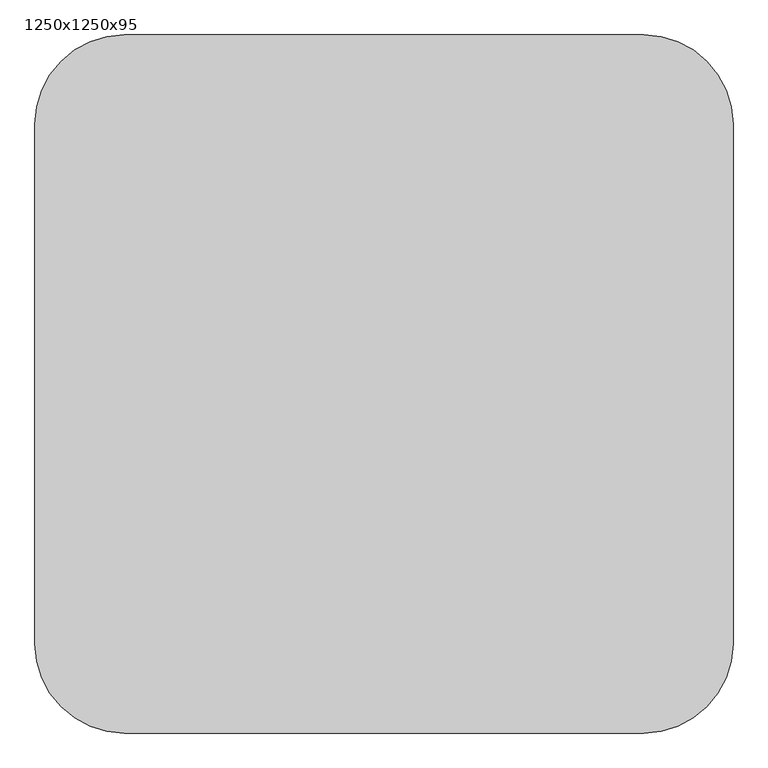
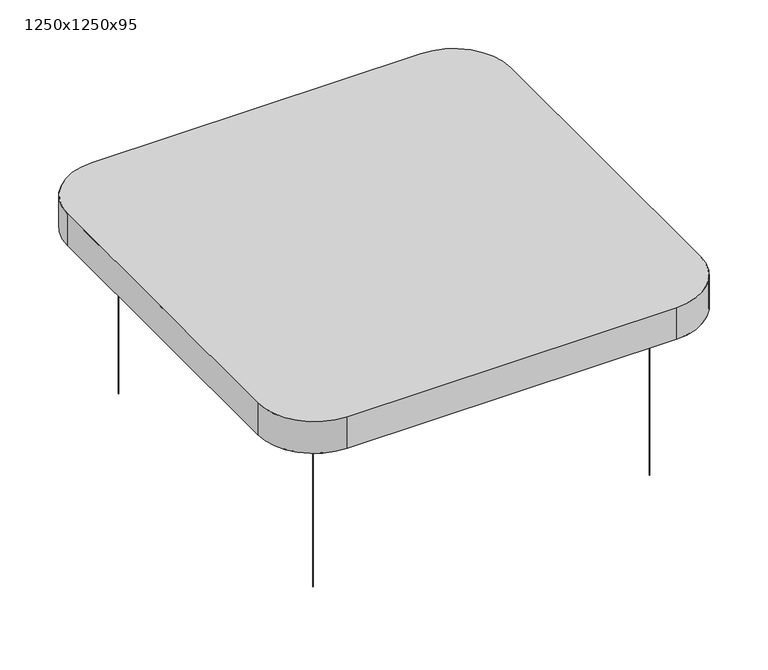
"""IFC4 building model written with IfcOpenShell, lengths in millimetres: proxy geometry, Texaa_Coussin_Abso_Carré_Suspendus_plafond : 1250x1250x95."""

from ifc_helpers import new_model, si_unit, point, frame, frame_2d, origin, origin_with_axes, place, context, project, spatial, polyline, circle_curve, trimmed, segment, composite_curve, outline, extrude, source, transform, mapped, element, save
from ifc_brep_helpers import plane_surface, cylinder_surface, revolved_surface, advanced_brep


def proxy_1250x1250x95_cf494940(model_context):
    return source(origin(), model_context, "Body", "SolidModel", [
        extrude(outline(composite_curve([segment(trimmed(circle_curve(frame_2d((-475.0, -475.0)), 0.75), [point((-475.75, -475.0))], [point((-474.25, -475.0))], False, "CARTESIAN"), True, "CONTINUOUS"), segment(trimmed(circle_curve(frame_2d((-475.0, -475.0)), 0.75), [point((-474.25, -475.0))], [point((-475.75, -475.0))], False, "CARTESIAN"), True, "CONTINUOUS")], self_intersect=False)), origin_with_axes(), (0.0, 0.0, 1.0), 500.0),
        extrude(outline(composite_curve([segment(trimmed(circle_curve(frame_2d((475.0, -475.0)), 0.75), [point((474.25, -475.0))], [point((475.75, -475.0))], False, "CARTESIAN"), True, "CONTINUOUS"), segment(trimmed(circle_curve(frame_2d((475.0, -475.0)), 0.75), [point((475.75, -475.0))], [point((474.25, -475.0))], False, "CARTESIAN"), True, "CONTINUOUS")], self_intersect=False)), origin_with_axes(), (0.0, 0.0, 1.0), 500.0),
        extrude(outline(composite_curve([segment(trimmed(circle_curve(frame_2d((475.0, 475.0)), 0.75), [point((474.25, 475.0))], [point((475.75, 475.0))], False, "CARTESIAN"), True, "CONTINUOUS"), segment(trimmed(circle_curve(frame_2d((475.0, 475.0)), 0.75), [point((475.75, 475.0))], [point((474.25, 475.0))], False, "CARTESIAN"), True, "CONTINUOUS")], self_intersect=False)), origin_with_axes(), (0.0, 0.0, 1.0), 500.0),
        extrude(outline(composite_curve([segment(trimmed(circle_curve(frame_2d((-475.0, 475.0)), 0.75), [point((-475.75, 475.0))], [point((-474.25, 475.0))], False, "CARTESIAN"), True, "CONTINUOUS"), segment(trimmed(circle_curve(frame_2d((-475.0, 475.0)), 0.75), [point((-474.25, 475.0))], [point((-475.75, 475.0))], False, "CARTESIAN"), True, "CONTINUOUS")], self_intersect=False)), origin_with_axes(), (0.0, 0.0, 1.0), 500.0),
        extrude(outline(composite_curve([segment(polyline([(-624.0, -465.0), (-624.0, 465.0)]), True, "CONTINUOUS"), segment(trimmed(circle_curve(frame_2d((-465.0, 465.0)), 159.0), [point((-624.0, 465.0))], [point((-465.0, 624.0))], False, "CARTESIAN"), True, "CONTINUOUS"), segment(polyline([(-465.0, 624.0), (465.0, 624.0)]), True, "CONTINUOUS"), segment(trimmed(circle_curve(frame_2d((465.0, 465.0)), 159.0), [point((465.0, 624.0))], [point((624.0, 465.0))], False, "CARTESIAN"), True, "CONTINUOUS"), segment(polyline([(624.0, 465.0), (624.0, -465.0)]), True, "CONTINUOUS"), segment(trimmed(circle_curve(frame_2d((465.0, -465.0)), 159.0), [point((624.0, -465.0))], [point((465.0, -624.0))], False, "CARTESIAN"), True, "CONTINUOUS"), segment(polyline([(465.0, -624.0), (-465.0, -624.0)]), True, "CONTINUOUS"), segment(trimmed(circle_curve(frame_2d((-465.0, -465.0)), 159.0), [point((-465.0, -624.0))], [point((-624.0, -465.0))], False, "CARTESIAN"), True, "CONTINUOUS")], self_intersect=False)), frame((0.0, 0.0, 501.0), z_axis=(0.0, 0.0, 1.0), x_axis=(1.0, 0.0, 0.0)), (0.0, 0.0, 1.0), 93.0),
        advanced_brep(
        [(-625.0, -465.0, 595.0), (-465.0, -625.0, 595.0), (465.0, -625.0, 595.0), (625.0, -465.0, 595.0), (625.0, 465.0, 595.0), (465.0, 625.0, 595.0), (-465.0, 625.0, 595.0), (-625.0, 465.0, 595.0), (-625.0, -465.0, 500.0), (-625.0, 465.0, 500.0), (-465.0, 625.0, 500.0), (465.0, 625.0, 500.0), (625.0, 465.0, 500.0), (625.0, -465.0, 500.0), (465.0, -625.0, 500.0), (-465.0, -625.0, 500.0), (-475.0, 575.0, 500.0), (-575.0, 475.0, 500.0), (-575.0, -475.0, 500.0), (-475.0, -575.0, 500.0), (475.0, -575.0, 500.0), (575.0, -475.0, 500.0), (575.0, 475.0, 500.0), (475.0, 575.0, 500.0), (475.0, 575.0, 501.0), (-475.0, 575.0, 501.0), (575.0, -475.0, 501.0), (575.0, 475.0, 501.0), (-475.0, -575.0, 501.0), (475.0, -575.0, 501.0), (-575.0, 475.0, 501.0), (-575.0, -475.0, 501.0), (-624.0, -465.0, 594.0), (-624.0, 465.0, 594.0), (-465.0, 624.0, 594.0), (465.0, 624.0, 594.0), (624.0, 465.0, 594.0), (624.0, -465.0, 594.0), (465.0, -624.0, 594.0), (-465.0, -624.0, 594.0), (-624.0, -465.0, 501.0), (-465.0, -624.0, 501.0), (465.0, -624.0, 501.0), (624.0, -465.0, 501.0), (624.0, 465.0, 501.0), (465.0, 624.0, 501.0), (-465.0, 624.0, 501.0), (-624.0, 465.0, 501.0)],
        [
            (0, 1, circle_curve(frame((-465.0, -465.0, 595.0), z_axis=(0.0, 0.0, 1.0), x_axis=(1.0, 0.0, 0.0)), 160.0)),
            (1, 2),
            (2, 3, circle_curve(frame((465.0, -465.0, 595.0), z_axis=(0.0, 0.0, 1.0), x_axis=(1.0, 0.0, 0.0)), 160.0)),
            (3, 4),
            (4, 5, circle_curve(frame((465.0, 465.0, 595.0), z_axis=(0.0, 0.0, 1.0), x_axis=(1.0, 0.0, 0.0)), 160.0)),
            (5, 6),
            (6, 7, circle_curve(frame((-465.0, 465.0, 595.0), z_axis=(0.0, 0.0, 1.0), x_axis=(1.0, 0.0, 0.0)), 160.0)),
            (7, 0),
            (8, 9),
            (9, 10, circle_curve(frame((-465.0, 465.0, 500.0), z_axis=(0.0, 0.0, -1.0), x_axis=(1.0, 0.0, 0.0)), 160.0)),
            (10, 11),
            (11, 12, circle_curve(frame((465.0, 465.0, 500.0), z_axis=(0.0, 0.0, -1.0), x_axis=(1.0, 0.0, 0.0)), 160.0)),
            (12, 13),
            (13, 14, circle_curve(frame((465.0, -465.0, 500.0), z_axis=(0.0, 0.0, -1.0), x_axis=(1.0, 0.0, 0.0)), 160.0)),
            (14, 15),
            (15, 8, circle_curve(frame((-465.0, -465.0, 500.0), z_axis=(0.0, 0.0, -1.0), x_axis=(1.0, 0.0, 0.0)), 160.0)),
            (16, 17),
            (17, 18),
            (18, 19),
            (19, 20),
            (20, 21),
            (21, 22),
            (22, 23),
            (23, 16),
            (7, 9),
            (8, 0),
            (5, 11),
            (10, 6),
            (3, 13),
            (12, 4),
            (1, 15),
            (14, 2),
            (23, 24),
            (24, 25),
            (25, 16),
            (21, 26),
            (26, 27),
            (27, 22),
            (19, 28),
            (28, 29),
            (29, 20),
            (17, 30),
            (30, 31),
            (31, 18),
            (32, 33),
            (33, 34, circle_curve(frame((-465.0, 465.0, 594.0), z_axis=(0.0, 0.0, -1.0), x_axis=(1.0, 0.0, 0.0)), 159.0)),
            (34, 35),
            (35, 36, circle_curve(frame((465.0, 465.0, 594.0), z_axis=(0.0, 0.0, -1.0), x_axis=(1.0, 0.0, 0.0)), 159.0)),
            (36, 37),
            (37, 38, circle_curve(frame((465.0, -465.0, 594.0), z_axis=(0.0, 0.0, -1.0), x_axis=(1.0, 0.0, 0.0)), 159.0)),
            (38, 39),
            (39, 32, circle_curve(frame((-465.0, -465.0, 594.0), z_axis=(0.0, 0.0, -1.0), x_axis=(1.0, 0.0, 0.0)), 159.0)),
            (40, 41, circle_curve(frame((-465.0, -465.0, 501.0), z_axis=(0.0, 0.0, 1.0), x_axis=(1.0, 0.0, 0.0)), 159.0)),
            (41, 42),
            (42, 43, circle_curve(frame((465.0, -465.0, 501.0), z_axis=(0.0, 0.0, 1.0), x_axis=(1.0, 0.0, 0.0)), 159.0)),
            (43, 44),
            (44, 45, circle_curve(frame((465.0, 465.0, 501.0), z_axis=(0.0, 0.0, 1.0), x_axis=(1.0, 0.0, 0.0)), 159.0)),
            (45, 46),
            (46, 47, circle_curve(frame((-465.0, 465.0, 501.0), z_axis=(0.0, 0.0, 1.0), x_axis=(1.0, 0.0, 0.0)), 159.0)),
            (47, 40),
            (24, 27),
            (26, 29),
            (28, 31),
            (30, 25),
            (32, 40),
            (47, 33),
            (34, 46),
            (45, 35),
            (36, 44),
            (43, 37),
            (38, 42),
            (41, 39),
        ],
        [
            plane_surface(frame((-625.0, 465.0, 595.0), z_axis=(0.0, 0.0, 1.0), x_axis=(0.0, 1.0, 0.0))),
            plane_surface(frame((-625.0, 465.0, 500.0), z_axis=(0.0, 0.0, -1.0), x_axis=(0.0, -1.0, 0.0))),
            plane_surface(frame((-625.0, -465.0, 595.0), z_axis=(-1.0, 0.0, 0.0), x_axis=(0.0, 0.0, -1.0))),
            plane_surface(frame((-465.0, 625.0, 595.0), z_axis=(0.0, 1.0, 0.0), x_axis=(0.0, 0.0, -1.0))),
            plane_surface(frame((625.0, 465.0, 595.0), z_axis=(1.0, 0.0, 0.0), x_axis=(0.0, 0.0, -1.0))),
            plane_surface(frame((465.0, -625.0, 595.0), z_axis=(0.0, -1.0, 0.0), x_axis=(0.0, 0.0, -1.0))),
            plane_surface(frame((-475.0, 575.0, 501.0), z_axis=(0.0, -1.0, 0.0), x_axis=(0.0, 0.0, -1.0))),
            plane_surface(frame((575.0, 475.0, 501.0), z_axis=(-1.0, 0.0, 0.0), x_axis=(0.0, 0.0, -1.0))),
            plane_surface(frame((475.0, -575.0, 501.0), z_axis=(0.0, 1.0, 0.0), x_axis=(0.0, 0.0, -1.0))),
            plane_surface(frame((-575.0, -475.0, 501.0), z_axis=(1.0, 0.0, 0.0), x_axis=(0.0, 0.0, -1.0))),
            plane_surface(frame((-624.0, 465.0, 594.0), z_axis=(0.0, 0.0, -1.0), x_axis=(0.0, 1.0, 0.0))),
            plane_surface(frame((-624.0, 465.0, 501.0), z_axis=(0.0, 0.0, 1.0), x_axis=(0.0, -1.0, 0.0))),
            plane_surface(frame((-624.0, -465.0, 594.0), z_axis=(1.0, 0.0, 0.0), x_axis=(0.0, 0.0, -1.0))),
            plane_surface(frame((-465.0, 624.0, 594.0), z_axis=(0.0, -1.0, 0.0), x_axis=(0.0, 0.0, -1.0))),
            plane_surface(frame((624.0, 465.0, 594.0), z_axis=(-1.0, 0.0, 0.0), x_axis=(0.0, 0.0, -1.0))),
            plane_surface(frame((465.0, -624.0, 594.0), z_axis=(0.0, 1.0, 0.0), x_axis=(0.0, 0.0, -1.0))),
            cylinder_surface(frame((-465.0, 465.0, 500.0), z_axis=(0.0, 0.0, 1.0), x_axis=(1.0, 0.0, 0.0)), 160.0),
            cylinder_surface(frame((465.0, 465.0, 500.0), z_axis=(0.0, 0.0, 1.0), x_axis=(1.0, 0.0, 0.0)), 160.0),
            cylinder_surface(frame((465.0, -465.0, 500.0), z_axis=(0.0, 0.0, 1.0), x_axis=(1.0, 0.0, 0.0)), 160.0),
            cylinder_surface(frame((-465.0, -465.0, 500.0), z_axis=(0.0, 0.0, 1.0), x_axis=(1.0, 0.0, 0.0)), 160.0),
            revolved_surface(polyline([(-306.0, 465.0, 594.0), (-306.0, 465.0, 501.0)]), (-465.0, 465.0, 501.0), (0.0, 0.0, 1.0)),
            revolved_surface(polyline([(624.0, 465.0, 594.0), (624.0, 465.0, 501.0)]), (465.0, 465.0, 501.0), (0.0, 0.0, 1.0)),
            revolved_surface(polyline([(624.0, -465.0, 594.0), (624.0, -465.0, 501.0)]), (465.0, -465.0, 501.0), (0.0, 0.0, 1.0)),
            revolved_surface(polyline([(-306.0, -465.0, 594.0), (-306.0, -465.0, 501.0)]), (-465.0, -465.0, 501.0), (0.0, 0.0, 1.0)),
            plane_surface(frame((-575.0, 475.0, 501.0), z_axis=(0.7071067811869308, -0.7071067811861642, 0.0), x_axis=(0.0, 0.0, -1.0))),
            plane_surface(frame((475.0, 575.0, 501.0), z_axis=(-0.7071067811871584, -0.7071067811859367, 0.0), x_axis=(0.0, 0.0, -1.0))),
            plane_surface(frame((575.0, -475.0, 501.0), z_axis=(-0.7071067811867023, 0.7071067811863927, 0.0), x_axis=(0.0, 0.0, -1.0))),
            plane_surface(frame((-475.0, -575.0, 501.0), z_axis=(0.7071067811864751, 0.7071067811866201, 0.0), x_axis=(0.0, 0.0, -1.0))),
        ],
        [
            (0, [[1, 2, 3, 4, 5, 6, 7, 8]]),
            (1, [[9, 10, 11, 12, 13, 14, 15, 16], [17, 18, 19, 20, 21, 22, 23, 24]]),
            (2, [[25, -9, 26, -8]]),
            (3, [[27, -11, 28, -6]]),
            (4, [[29, -13, 30, -4]]),
            (5, [[31, -15, 32, -2]]),
            (6, [[-24, 33, 34, 35]]),
            (7, [[-22, 36, 37, 38]]),
            (8, [[-20, 39, 40, 41]]),
            (9, [[-18, 42, 43, 44]]),
            (10, [[45, 46, 47, 48, 49, 50, 51, 52]]),
            (11, [[53, 54, 55, 56, 57, 58, 59, 60], [61, -37, 62, -40, 63, -43, 64, -34]]),
            (12, [[65, -60, 66, -45]]),
            (13, [[67, -58, 68, -47]]),
            (14, [[69, -56, 70, -49]]),
            (15, [[71, -54, 72, -51]]),
            (16, [[-28, -10, -25, -7]]),
            (17, [[-30, -12, -27, -5]]),
            (18, [[-32, -14, -29, -3]]),
            (19, [[-26, -16, -31, -1]]),
            (20, [[-66, -59, -67, -46]]),
            (21, [[-68, -57, -69, -48]]),
            (22, [[-70, -55, -71, -50]]),
            (23, [[-72, -53, -65, -52]]),
            (24, [[-64, -42, -17, -35]]),
            (25, [[-61, -33, -23, -38]]),
            (26, [[-62, -36, -21, -41]]),
            (27, [[-63, -39, -19, -44]]),
        ],
    ),
    ])


if __name__ == "__main__":
    model = new_model("IFC4")
    model_context = context("Model", 3, world=origin())
    ifc_project = project(units=[si_unit("LENGTHUNIT", "METRE", prefix="MILLI")], contexts=[model_context])
    site = spatial("IfcSite", under=ifc_project)
    building = spatial("IfcBuilding", under=site)
    placement = place(None, origin())
    proxy_1250x1250x95_shape = proxy_1250x1250x95_cf494940(model_context)
    element("IfcBuildingElementProxy", 1, Name="Texaa_Coussin_Abso_Carré_Suspendus_plafond : 1250x1250x95", ObjectType="Texaa_Coussin_Abso_Carré_Suspendus_plafond : 1250x1250x95", at=placement, inside=building, context=model_context, shape_type="MappedRepresentation", body=[
        mapped(proxy_1250x1250x95_shape, transform((0.0, 0.0, 0.0), x_axis=(1.0, 0.0, 0.0), y_axis=(0.0, 1.0, 0.0), z_axis=(0.0, 0.0, 1.0))),
    ])
    save(model, "model.ifc")
